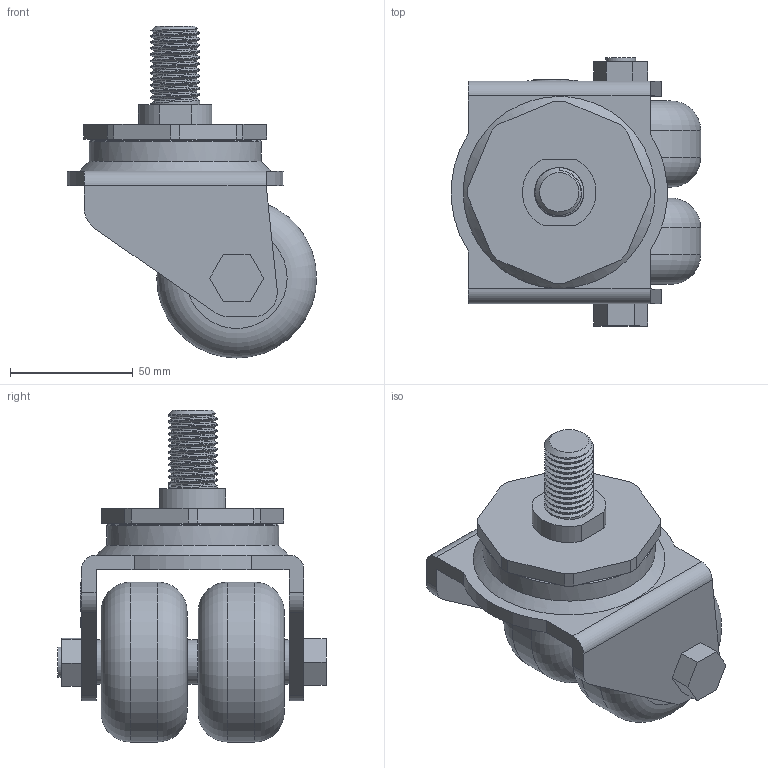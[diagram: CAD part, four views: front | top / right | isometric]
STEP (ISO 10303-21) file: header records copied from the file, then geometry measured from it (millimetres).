
FILE_DESCRIPTION(/* description */ (''),/* implementation_level */ '2;1');
FILE_NAME(/* name */ '90A06_2,5_R.stp',/* time_stamp */ '2022-08-29T13:22:54+08:00',/* author */ (''),/* organization */ (''),/* preprocessor_version */ 'ST-DEVELOPER v14',/* originating_system */ 'SIEMENS PLM Software NX 8.0',/* authorisation */ '');
FILE_SCHEMA (('AUTOMOTIVE_DESIGN { 1 0 10303 214 3 1 1 1 }'));
Length unit declared in the file: millimetre
Products named in the file (1): 90A06_2,5_R
Bounding box: 101.35 x 109 x 135 mm (x, y, z)
Volume: 375886.8 mm3; surface area: 75757.2 mm2
Topology: 1 solids, 5 shells, 328 faces, 835 edges, 557 vertices
Faces by surface type: plane 242, cylinder 64, torus 7, cone 6, revolution 5, bspline 4
Full cylindrical faces by diameter (mm): 12 x2, 12.2 x1, 12.5 x1, 15 x2, 17.142 x1, 18 x3, 20 x2, 20.1 x1, 22 x1, 24.608 x1, 28 x1, 40 x1, 60 x2, 62.5 x1, 65 x2, 70 x1
Entity records: 12885 total; most frequent: CARTESIAN_POINT 5555, ORIENTED_EDGE 1548, DIRECTION 1314, EDGE_CURVE 774, VERTEX_POINT 539, AXIS2_PLACEMENT_3D 467, EDGE_LOOP 421, LINE 375
